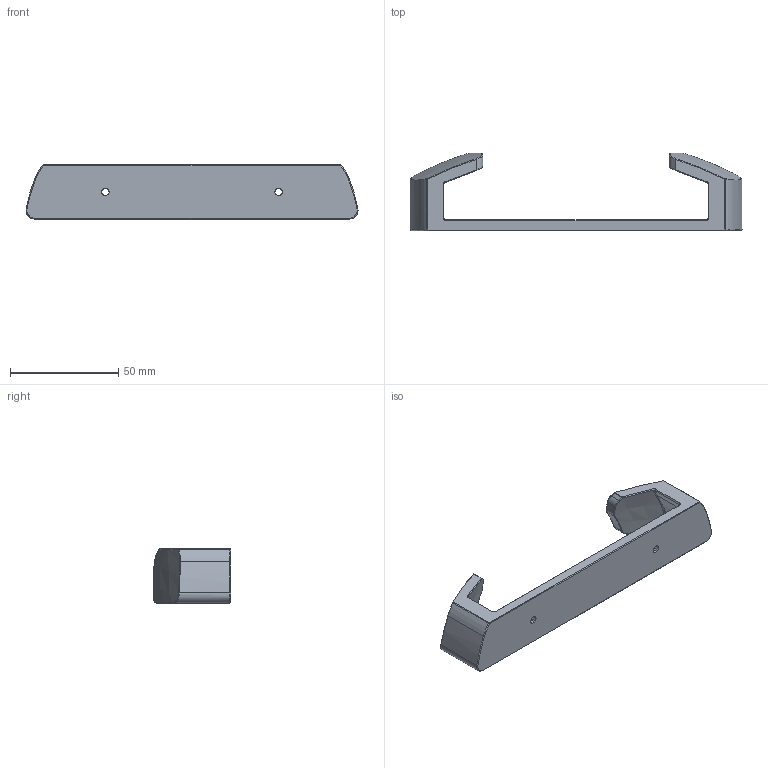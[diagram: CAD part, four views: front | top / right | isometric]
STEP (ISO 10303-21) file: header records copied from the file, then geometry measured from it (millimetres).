
FILE_DESCRIPTION (( 'STEP AP214' ), '1' );
FILE_NAME ('Topfdeckelhalterung 14cm.STEP', '2025-06-14T11:12:35', ( '' ), ( '' ), 'SwSTEP 2.0', 'SolidWorks 2012', '' );
FILE_SCHEMA (( 'AUTOMOTIVE_DESIGN' ));
Length unit declared in the file: millimetre
Products named in the file (1): Topfdeckelhalterung 14cm
Bounding box: 153.32 x 35.85 x 25 mm (x, y, z)
Volume: 30945.5 mm3; surface area: 14063.4 mm2
Topology: 1 solids, 1 shells, 132 faces, 320 edges, 188 vertices
Faces by surface type: bspline 62, plane 27, cylinder 23, cone 10, torus 10
Entity records: 6647 total; most frequent: CARTESIAN_POINT 4074, ORIENTED_EDGE 636, DIRECTION 366, EDGE_CURVE 318, VERTEX_POINT 188, B_SPLINE_CURVE_WITH_KNOTS 164, AXIS2_PLACEMENT_3D 147, EDGE_LOOP 136
